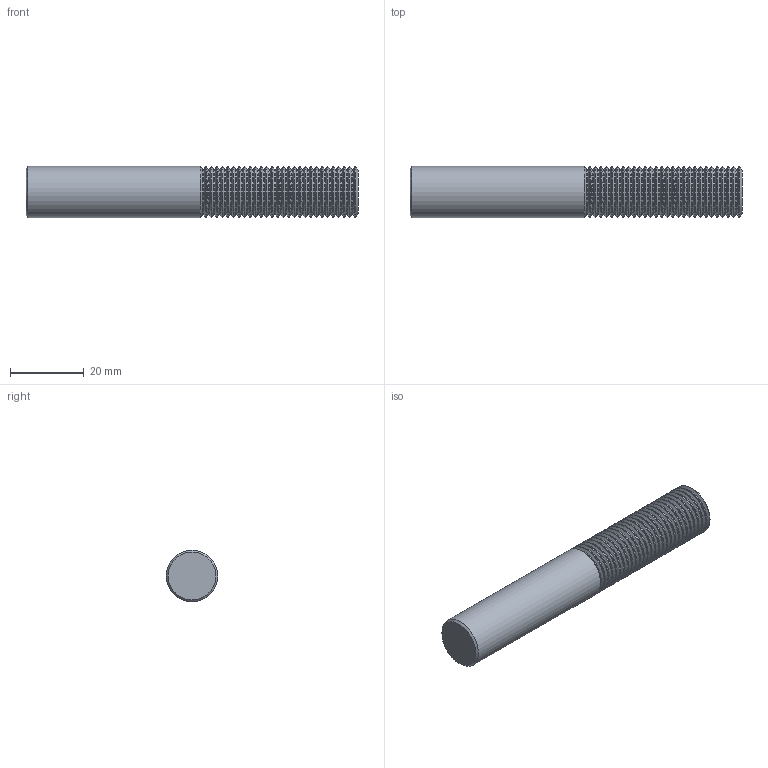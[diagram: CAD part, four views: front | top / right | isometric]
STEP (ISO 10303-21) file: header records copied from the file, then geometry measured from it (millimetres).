
FILE_DESCRIPTION(/* description */ (''),/* implementation_level */ '2;1');
FILE_NAME(/* name */ '00031454-TDM',/* time_stamp */ '2024-02-13T10:39:48+01:00',/* author */ (''),/* organization */ (''),/* preprocessor_version */ 'ST-DEVELOPER v16.5',/* originating_system */ 'HiCAD 2017 2201.0 Build 268',/* authorisation */ '');
FILE_SCHEMA (('AUTOMOTIVE_DESIGN { 1 0 10303 214 1 1 1 1 }'));
Length unit declared in the file: millimetre
Products named in the file (3): Root; ROTATIONSTEIL_0
Assembly tree (2 placements, depth 3):
  Root
    ROTATIONSTEIL_0
      ROTATIONSTEIL_0
Bounding box: 90 x 14 x 14 mm (x, y, z)
Volume: 12944.7 mm3; surface area: 5361.5 mm2
Topology: 2 solids, 2 shells, 176 faces, 348 edges, 176 vertices
Faces by surface type: cone 58, cylinder 58, torus 56, plane 4
Full cylindrical faces by diameter (mm): 12.344 x29, 13.95 x28, 14 x1
Entity records: 5304 total; most frequent: DIRECTION 708, CARTESIAN_POINT 528, AXIS2_PLACEMENT_3D 354, PRESENTATION_STYLE_ASSIGNMENT 350, COLOUR_RGB 350, DRAUGHTING_PRE_DEFINED_CURVE_FONT 348, CURVE_STYLE 348, OVER_RIDING_STYLED_ITEM 348
